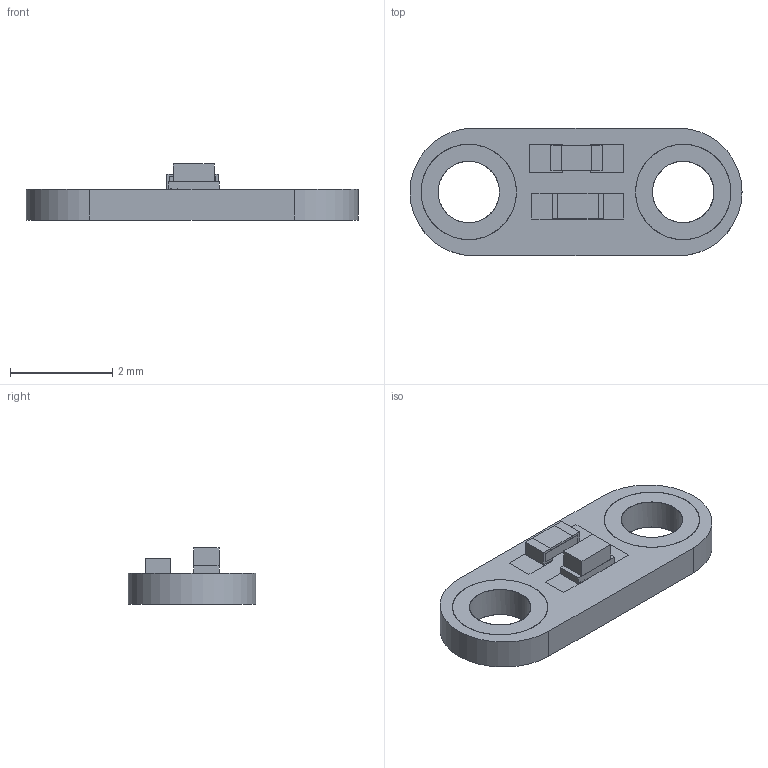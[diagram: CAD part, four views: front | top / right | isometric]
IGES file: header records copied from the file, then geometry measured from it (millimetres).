
Global section: file name: Filename.iges; native system: Open CASCADE 7.4; preprocessor: Open CASCADE IGES processor 7.4; date: 20200819.142733; units: millimetre
Bounding box: 6.5 x 2.5 x 1.1 mm (x, y, z)
Surface area: 80.7 mm2 (no closed solid volume)
Topology: 0 solids, 0 shells, 164 faces, 642 edges, 606 vertices
Faces by surface type: plane 144, revolution 20
